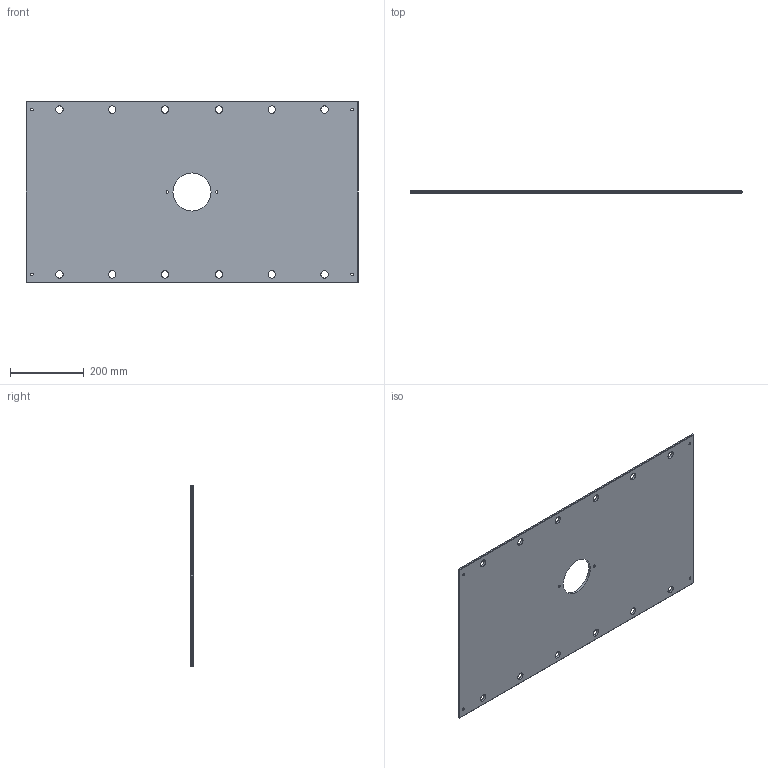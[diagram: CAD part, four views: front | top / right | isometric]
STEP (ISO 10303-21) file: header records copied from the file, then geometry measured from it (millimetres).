
FILE_DESCRIPTION (( 'STEP AP214' ), '1' );
FILE_NAME ('ME-0619-CH-1935.STEP', '2020-02-12T06:29:23', ( '' ), ( '' ), 'SwSTEP 2.0', 'SolidWorks 2018', '' );
FILE_SCHEMA (( 'AUTOMOTIVE_DESIGN' ));
Length unit declared in the file: inch
Products named in the file (1): ME-0619-CH-1935
Bounding box: 898.52 x 6.35 x 492.12 mm (x, y, z)
Volume: 2724000.5 mm3; surface area: 880771.2 mm2
Topology: 1 solids, 1 shells, 76 faces, 186 edges, 112 vertices
Faces by surface type: cylinder 38, plane 26, cone 12
Entity records: 2346 total; most frequent: DIRECTION 428, CARTESIAN_POINT 375, ORIENTED_EDGE 372, EDGE_CURVE 186, AXIS2_PLACEMENT_3D 165, EDGE_LOOP 114, VERTEX_POINT 112, VECTOR 98
